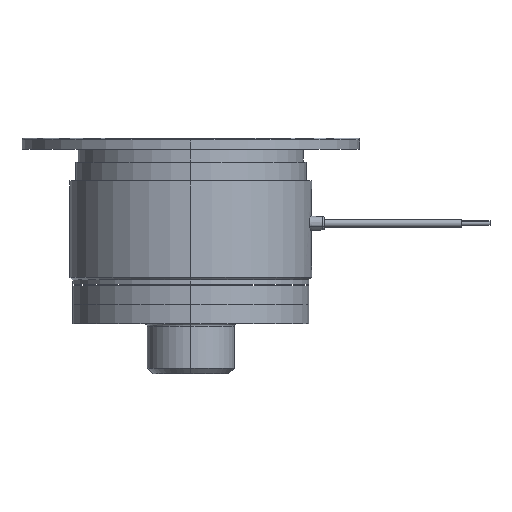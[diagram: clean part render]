
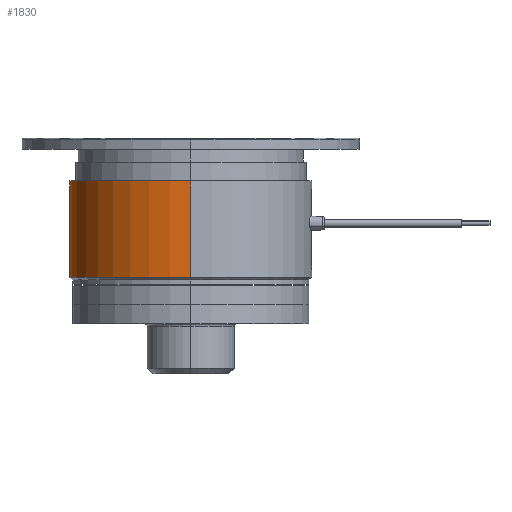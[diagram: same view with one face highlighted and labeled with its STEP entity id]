
A CAD part, left-side view. The second image highlights one B-rep face of the part: STEP entity #1830.
In plain terms, the highlighted cylindrical face has radius 21.5 mm (diameter 43 mm), a partial arc.
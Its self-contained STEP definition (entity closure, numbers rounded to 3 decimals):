
#29 = CARTESIAN_POINT ( 'NONE',  ( -21.5, 0., 3.603 ) ) ;
#93 = DIRECTION ( 'NONE',  ( 1., 0., 0. ) ) ;
#179 = CARTESIAN_POINT ( 'NONE',  ( 0., 0., 3.603 ) ) ;
#202 = ORIENTED_EDGE ( 'NONE', *, *, #5798, .F. ) ;
#571 = DIRECTION ( 'NONE',  ( 0., 0., 1. ) ) ;
#668 = CIRCLE ( 'NONE', #5115, 21.5 ) ;
#741 = CIRCLE ( 'NONE', #1414, 21.5 ) ;
#885 = VECTOR ( 'NONE', #2624, 1000. ) ;
#891 = LINE ( 'NONE', #29, #885 ) ;
#900 = CARTESIAN_POINT ( 'NONE',  ( 0., 0., -7.6 ) ) ;
#1414 = AXIS2_PLACEMENT_3D ( 'NONE', #4423, #571, #4466 ) ;
#1526 = ORIENTED_EDGE ( 'NONE', *, *, #8150, .T. ) ;
#1830 = ADVANCED_FACE ( 'NONE', ( #3999 ), #2045, .T. ) ;
#2045 = CYLINDRICAL_SURFACE ( 'NONE', #5975, 21.5 ) ;
#2624 = DIRECTION ( 'NONE',  ( 0., 0., 1. ) ) ;
#2883 = DIRECTION ( 'NONE',  ( 0., 0., 1. ) ) ;
#3044 = CARTESIAN_POINT ( 'NONE',  ( 21.5, 0., -7.6 ) ) ;
#3307 = EDGE_CURVE ( 'NONE', #3967, #5013, #741, .T. ) ;
#3339 = ORIENTED_EDGE ( 'NONE', *, *, #3307, .T. ) ;
#3967 = VERTEX_POINT ( 'NONE', #5490 ) ;
#3970 = VERTEX_POINT ( 'NONE', #6744 ) ;
#3999 = FACE_OUTER_BOUND ( 'NONE', #5146, .T. ) ;
#4147 = VERTEX_POINT ( 'NONE', #3044 ) ;
#4423 = CARTESIAN_POINT ( 'NONE',  ( 0., 0., -24.7 ) ) ;
#4466 = DIRECTION ( 'NONE',  ( 1., 0., 0. ) ) ;
#4507 = VECTOR ( 'NONE', #5678, 1000. ) ;
#4550 = LINE ( 'NONE', #7718, #4507 ) ;
#5013 = VERTEX_POINT ( 'NONE', #7959 ) ;
#5115 = AXIS2_PLACEMENT_3D ( 'NONE', #900, #2883, #6705 ) ;
#5146 = EDGE_LOOP ( 'NONE', ( #3339, #1526, #6774, #202 ) ) ;
#5490 = CARTESIAN_POINT ( 'NONE',  ( 21.5, 0., -24.7 ) ) ;
#5678 = DIRECTION ( 'NONE',  ( 0., 0., 1. ) ) ;
#5798 = EDGE_CURVE ( 'NONE', #3967, #4147, #4550, .T. ) ;
#5975 = AXIS2_PLACEMENT_3D ( 'NONE', #179, #7313, #93 ) ;
#6491 = EDGE_CURVE ( 'NONE', #4147, #3970, #668, .T. ) ;
#6705 = DIRECTION ( 'NONE',  ( 1., 0., 0. ) ) ;
#6744 = CARTESIAN_POINT ( 'NONE',  ( -21.5, 0., -7.6 ) ) ;
#6774 = ORIENTED_EDGE ( 'NONE', *, *, #6491, .F. ) ;
#7313 = DIRECTION ( 'NONE',  ( 0., 0., 1. ) ) ;
#7718 = CARTESIAN_POINT ( 'NONE',  ( 21.5, 0., 3.603 ) ) ;
#7959 = CARTESIAN_POINT ( 'NONE',  ( -21.5, 0., -24.7 ) ) ;
#8150 = EDGE_CURVE ( 'NONE', #5013, #3970, #891, .T. ) ;
